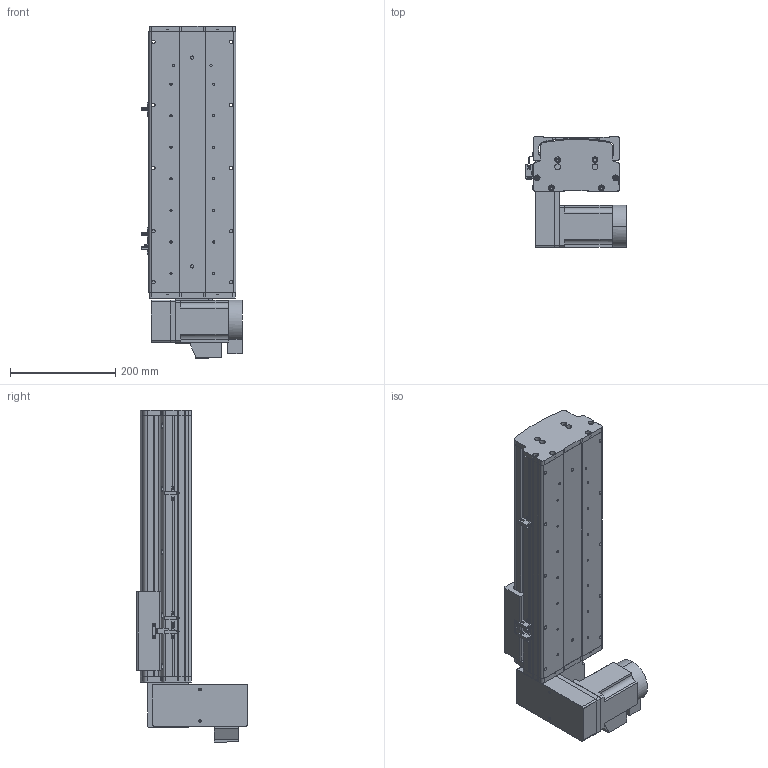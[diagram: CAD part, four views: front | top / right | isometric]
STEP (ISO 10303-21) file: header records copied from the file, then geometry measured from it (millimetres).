
FILE_DESCRIPTION (( 'STEP AP214' ), '1' );
FILE_NAME ('KSD165B-S250-MLD-CM .STEP', '2017-10-16T06:45:44', ( '微软用户' ), ( '微软中国' ), 'SwSTEP 2.0', 'SolidWorks 2014', '' );
FILE_SCHEMA (( 'AUTOMOTIVE_DESIGN' ));
Length unit declared in the file: millimetre
Products named in the file (17): U倰嫖萇EEㄜSX672; 覜茼え68遵圉猾敕; KSD165模组-同步带-防撞垫2; KSD165模组同步带-防撞垫1; KSD165耀郪-ヶ傷啣1-肮祭湍; KSD165模组-后端板1-同步带; KSD165模组-同步带滑动座-最新版; KSD165B-S250-MLD-CM ; 130宽模组马达安装板连板上下折丝杆同步带; 130宽模组保护罩上下左右折-同步带; HTPA26S5M250-A-H8 750W萇儂蚚; HTPA26S5M250-A-H8 400W萇儂蚚 ; 165宽马达安装板同步带左-改; KSD165模组-同步带防尘盖1-250行程-最新版; KSD165模组同步带底板-250行程-最新; 拸秶雄ん750W侜督萇儂; U倰嫖萇假蚾璃
Assembly tree (20 placements, depth 2):
  KSD165B-S250-MLD-CM 
    KSD165模组-同步带滑动座-最新版
    KSD165模组-后端板1-同步带
    KSD165耀郪-ヶ傷啣1-肮祭湍
    KSD165模组同步带-防撞垫1
    KSD165模组-同步带-防撞垫2
    覜茼え68遵圉猾敕
    U倰嫖萇EEㄜSX672  x3
    U倰嫖萇假蚾璃  x3
    拸秶雄ん750W侜督萇儂
    KSD165模组同步带底板-250行程-最新
    KSD165模组-同步带防尘盖1-250行程-最新版
    165宽马达安装板同步带左-改
    HTPA26S5M250-A-H8 400W萇儂蚚 
    HTPA26S5M250-A-H8 750W萇儂蚚
    130宽模组保护罩上下左右折-同步带
    130宽模组马达安装板连板上下折丝杆同步带
Bounding box: 191.2 x 210 x 631 mm (x, y, z)
Volume: 4530275.4 mm3; surface area: 1045517 mm2
Topology: 21 solids, 22 shells, 1867 faces, 5250 edges, 3424 vertices
Faces by surface type: cylinder 1177, plane 578, cone 112
Entity records: 59632 total; most frequent: CARTESIAN_POINT 12234, DIRECTION 9882, ORIENTED_EDGE 9160, EDGE_CURVE 4580, AXIS2_PLACEMENT_3D 3862, VERTEX_POINT 3016, CIRCLE 2192, VECTOR 2158
